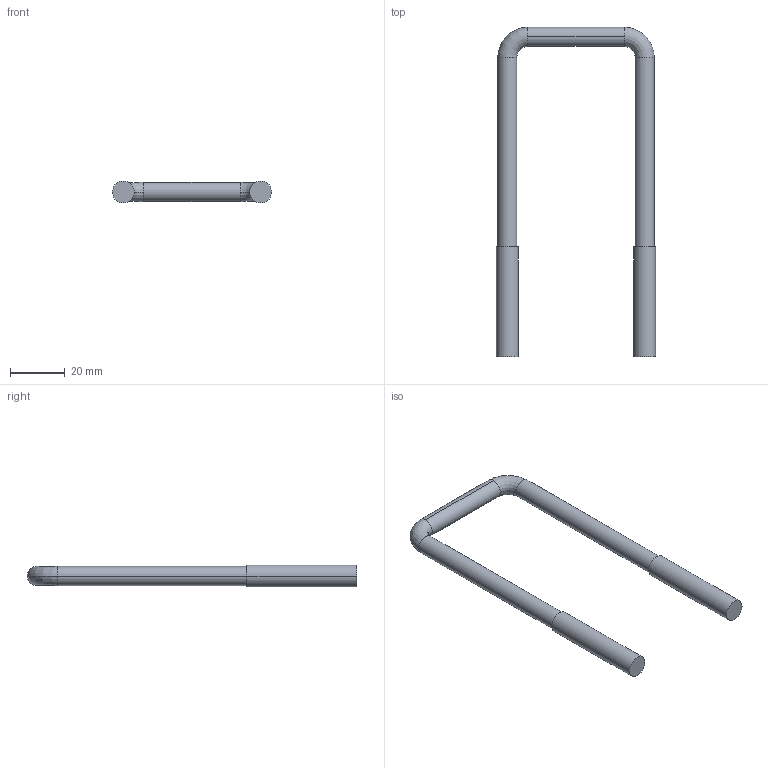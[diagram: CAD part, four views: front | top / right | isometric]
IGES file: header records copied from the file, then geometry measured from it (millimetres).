
Start section: 3D InterOp IGES (v. 2019 1.0.2), Spatial Corp. Copyright (c) 1999-2017.
Global section: file name: AU12050M8EQ.igs; native system: Spatial Corp.; preprocessor: 3D InterOp GENERIC/IGES 3.0; author: Noname; organization: Noname; date: 20210211.095156; units: millimetre
Bounding box: 58 x 120 x 8 mm (x, y, z)
Surface area: 6457.3 mm2 (no closed solid volume)
Topology: 0 solids, 0 shells, 18 faces, 76 edges, 76 vertices
Faces by surface type: revolution 14, extrusion 4
